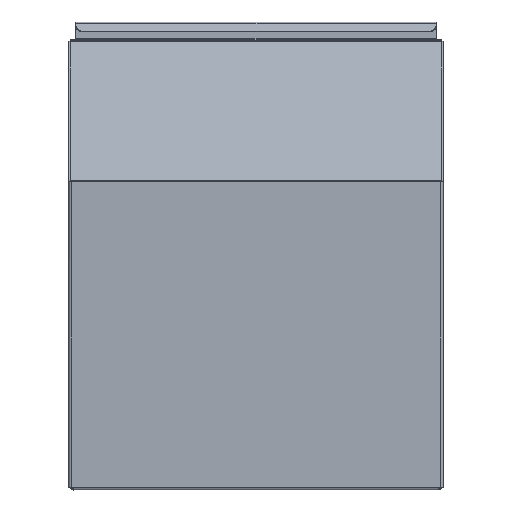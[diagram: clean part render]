
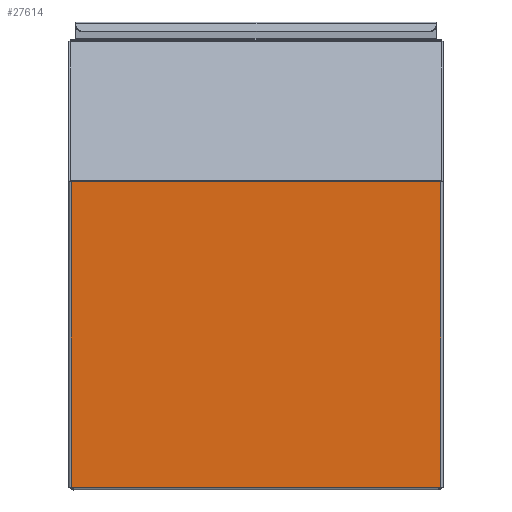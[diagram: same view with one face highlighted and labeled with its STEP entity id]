
A CAD part, top view. The second image highlights one B-rep face of the part: STEP entity #27614.
In plain terms, the highlighted planar face has unit normal (0, 0, 1) as drawn and (0, 0, -1) by its records, which use the part's own axes.
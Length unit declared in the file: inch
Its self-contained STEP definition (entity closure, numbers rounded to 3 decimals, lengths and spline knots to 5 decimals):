
#1796 = EDGE_CURVE ( 'NONE', #15130, #17195, #3616, .T. ) ;
#2501 = VECTOR ( 'NONE', #7327, 39.37008 ) ;
#2607 = CARTESIAN_POINT ( 'NONE',  ( -5.864, -4.9005, -0.048 ) ) ;
#3474 = CARTESIAN_POINT ( 'NONE',  ( 5.922, 4.9005, -0.048 ) ) ;
#3520 = DIRECTION ( 'NONE',  ( 0., -1., 0. ) ) ;
#3616 = LINE ( 'NONE', #27347, #16081 ) ;
#3798 = VERTEX_POINT ( 'NONE', #3474 ) ;
#4244 = LINE ( 'NONE', #9683, #29208 ) ;
#4967 = VERTEX_POINT ( 'NONE', #31933 ) ;
#5353 = AXIS2_PLACEMENT_3D ( 'NONE', #21574, #14126, #31608 ) ;
#5380 = DIRECTION ( 'NONE',  ( 0., 1., 0. ) ) ;
#6141 = EDGE_CURVE ( 'NONE', #20482, #4967, #14055, .T. ) ;
#6870 = FACE_OUTER_BOUND ( 'NONE', #28039, .T. ) ;
#7327 = DIRECTION ( 'NONE',  ( 1., 0., 0. ) ) ;
#7339 = LINE ( 'NONE', #11128, #13967 ) ;
#7970 = CARTESIAN_POINT ( 'NONE',  ( -5.922, -4.9005, -0.048 ) ) ;
#8053 = CARTESIAN_POINT ( 'NONE',  ( -5.947, 4.9005, -0.048 ) ) ;
#8502 = ORIENTED_EDGE ( 'NONE', *, *, #6141, .T. ) ;
#9683 = CARTESIAN_POINT ( 'NONE',  ( 5.864, -4.9005, -0.048 ) ) ;
#10920 = ORIENTED_EDGE ( 'NONE', *, *, #28192, .F. ) ;
#11128 = CARTESIAN_POINT ( 'NONE',  ( 5.922, 4.9005, -0.048 ) ) ;
#11601 = VECTOR ( 'NONE', #25521, 39.37008 ) ;
#12705 = ORIENTED_EDGE ( 'NONE', *, *, #1796, .F. ) ;
#13967 = VECTOR ( 'NONE', #3520, 39.37008 ) ;
#14055 = LINE ( 'NONE', #7970, #27351 ) ;
#14126 = DIRECTION ( 'NONE',  ( 0., 0., -1. ) ) ;
#15130 = VERTEX_POINT ( 'NONE', #17348 ) ;
#16081 = VECTOR ( 'NONE', #29838, 39.37008 ) ;
#17195 = VERTEX_POINT ( 'NONE', #18191 ) ;
#17348 = CARTESIAN_POINT ( 'NONE',  ( 5.864, -4.9005, -0.048 ) ) ;
#18191 = CARTESIAN_POINT ( 'NONE',  ( 5.922, -4.9005, -0.048 ) ) ;
#20317 = EDGE_CURVE ( 'NONE', #15130, #24375, #4244, .T. ) ;
#20482 = VERTEX_POINT ( 'NONE', #25512 ) ;
#21574 = CARTESIAN_POINT ( 'NONE',  ( 0., 0., -0.048 ) ) ;
#22125 = DIRECTION ( 'NONE',  ( -1., 0., 0. ) ) ;
#22402 = LINE ( 'NONE', #32189, #2501 ) ;
#24089 = EDGE_CURVE ( 'NONE', #3798, #17195, #7339, .T. ) ;
#24375 = VERTEX_POINT ( 'NONE', #2607 ) ;
#24467 = EDGE_CURVE ( 'NONE', #3798, #4967, #24897, .T. ) ;
#24897 = LINE ( 'NONE', #8053, #11601 ) ;
#24970 = ORIENTED_EDGE ( 'NONE', *, *, #20317, .T. ) ;
#25512 = CARTESIAN_POINT ( 'NONE',  ( -5.922, -4.9005, -0.048 ) ) ;
#25521 = DIRECTION ( 'NONE',  ( -1., 0., 0. ) ) ;
#27141 = ORIENTED_EDGE ( 'NONE', *, *, #24467, .F. ) ;
#27347 = CARTESIAN_POINT ( 'NONE',  ( -5.947, -4.9005, -0.048 ) ) ;
#27351 = VECTOR ( 'NONE', #5380, 39.37008 ) ;
#27614 = ADVANCED_FACE ( 'NONE', ( #6870 ), #29104, .T. ) ;
#28039 = EDGE_LOOP ( 'NONE', ( #27141, #28696, #12705, #24970, #10920, #8502 ) ) ;
#28192 = EDGE_CURVE ( 'NONE', #20482, #24375, #22402, .T. ) ;
#28696 = ORIENTED_EDGE ( 'NONE', *, *, #24089, .T. ) ;
#29104 = PLANE ( 'NONE',  #5353 ) ;
#29208 = VECTOR ( 'NONE', #22125, 39.37008 ) ;
#29838 = DIRECTION ( 'NONE',  ( 1., 0., 0. ) ) ;
#31608 = DIRECTION ( 'NONE',  ( -1., 0., 0. ) ) ;
#31933 = CARTESIAN_POINT ( 'NONE',  ( -5.922, 4.9005, -0.048 ) ) ;
#32189 = CARTESIAN_POINT ( 'NONE',  ( -5.947, -4.9005, -0.048 ) ) ;
